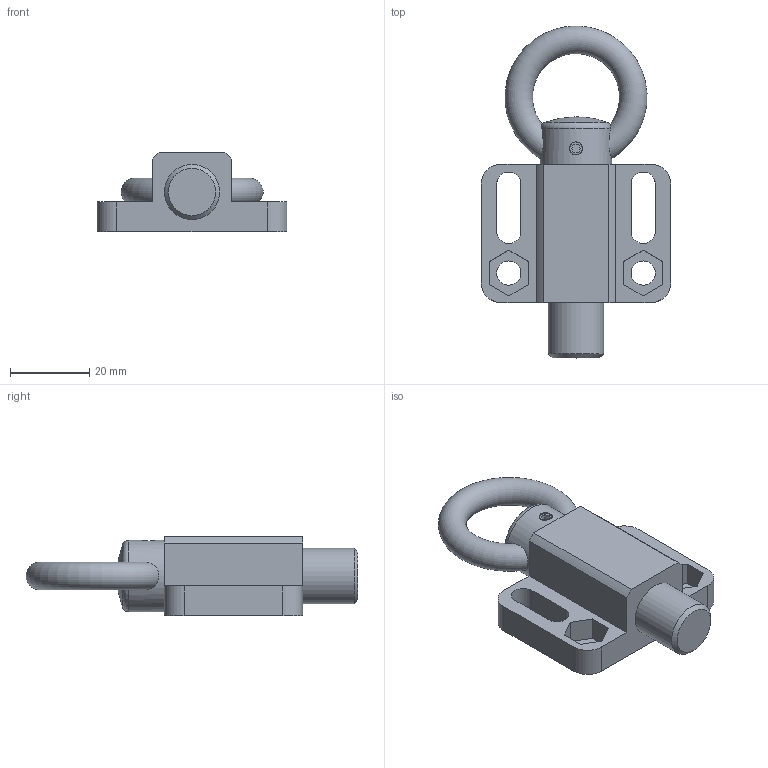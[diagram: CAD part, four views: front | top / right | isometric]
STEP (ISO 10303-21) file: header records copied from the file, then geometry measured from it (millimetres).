
FILE_DESCRIPTION(/* description */ ('STEP AP214'),/* implementation_level */ '2;1');
FILE_NAME(/* name */ 'Indexing plunger GN 722.6-14-20-A-SW (deactivated)',/* time_stamp */ '2023-02-28T07:38:25+01:00',/* author */ ('License CC BY-ND 4.0'),/* organization */ ('CADENAS'),/* preprocessor_version */ 'ST-DEVELOPER v18.102',/* originating_system */ 'PARTsolutions',/* authorisation */ ' ');
FILE_SCHEMA (('AUTOMOTIVE_DESIGN {1 0 10303 214 3 1 1}'));
Length unit declared in the file: millimetre
Products named in the file (3): Indexing plunger GN 722.6-14-20-A-SW (deactivated); Indexing plunger GN 722.6-14-20-A-SW (deactivated)-2; Indexing plunger GN 722.6-14-20-A-SW (deactivated)-1
Assembly tree (2 placements, depth 2):
  Indexing plunger GN 722.6-14-20-A-SW (deactivated)
    Indexing plunger GN 722.6-14-20-A-SW (deactivated)-2
    Indexing plunger GN 722.6-14-20-A-SW (deactivated)-1
Bounding box: 48 x 83.99 x 20 mm (x, y, z)
Volume: 25484 mm3; surface area: 12628.6 mm2
Topology: 2 solids, 2 shells, 67 faces, 166 edges, 109 vertices
Faces by surface type: plane 42, cylinder 20, torus 2, cone 2, sphere 1
Full cylindrical faces by diameter (mm): 3.3 x1, 6.1 x2, 14 x4, 16 x2, 18 x1
Entity records: 2017 total; most frequent: CARTESIAN_POINT 370, DIRECTION 326, ORIENTED_EDGE 296, EDGE_CURVE 148, AXIS2_PLACEMENT_3D 113, VERTEX_POINT 106, LINE 100, VECTOR 100
